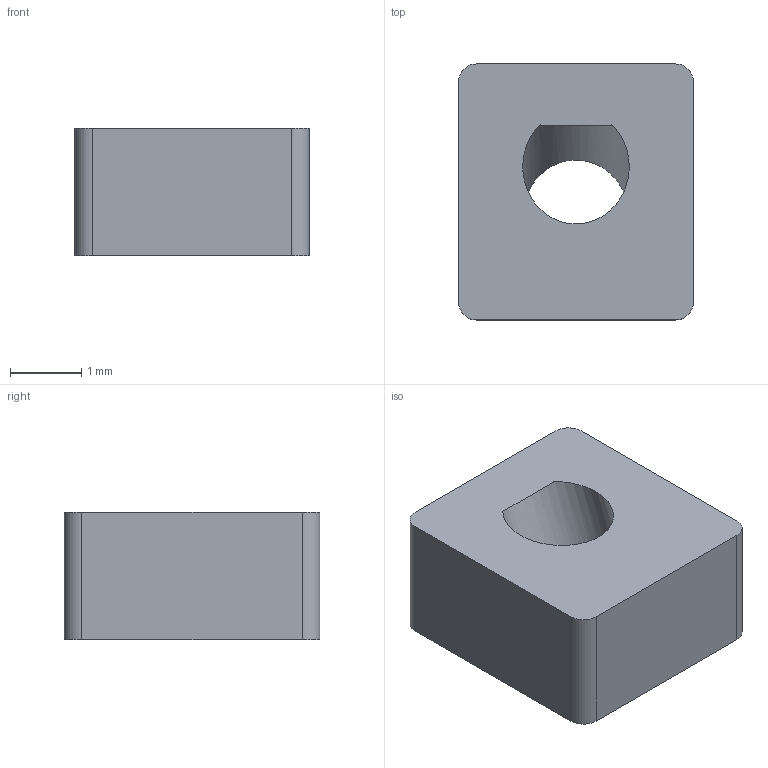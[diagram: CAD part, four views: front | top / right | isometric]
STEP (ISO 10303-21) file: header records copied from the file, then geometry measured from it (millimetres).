
FILE_DESCRIPTION(/* description */ (''),/* implementation_level */ '2;1');
FILE_NAME(/* name */ 'C28_R2_Microphone_BOTTOM_PORT_Offset_Seal_REVIEW.step',/* time_stamp */ '2026-09-10T17:49:18-07:00',/* author */ (''),/* organization */ (''),/* preprocessor_version */ 'ST-DEVELOPER v20.1',/* originating_system */ 'Autodesk Translation Framework v15.8.0.0',/* authorisation */ '');
FILE_SCHEMA (('AUTOMOTIVE_DESIGN { 1 0 10303 214 3 1 1 }'));
Length unit declared in the file: millimetre
Products named in the file (1): 2026-09-10-17-49-18-775
Bounding box: 3.3 x 3.6 x 1.8 mm (x, y, z)
Volume: 17.9 mm3; surface area: 53.5 mm2
Topology: 1 solids, 1 shells, 13 faces, 33 edges, 22 vertices
Faces by surface type: plane 8, cylinder 5
Full cylindrical faces by diameter (mm): 1.5 x1
Entity records: 438 total; most frequent: DIRECTION 75, CARTESIAN_POINT 69, ORIENTED_EDGE 66, EDGE_CURVE 33, AXIS2_PLACEMENT_3D 28, VERTEX_POINT 22, LINE 19, VECTOR 19
